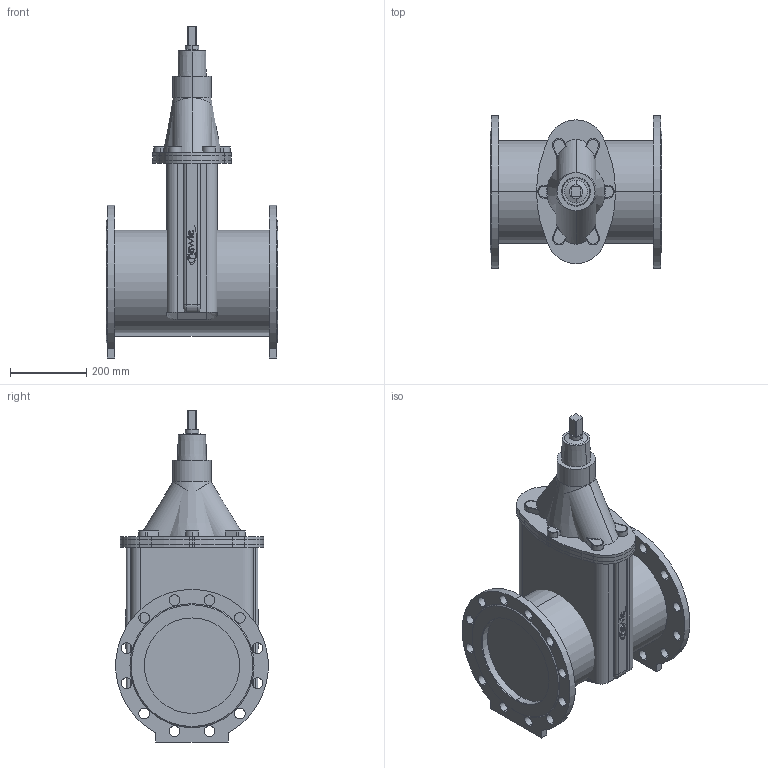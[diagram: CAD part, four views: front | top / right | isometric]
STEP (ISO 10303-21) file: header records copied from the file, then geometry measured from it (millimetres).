
FILE_DESCRIPTION(('STEP AP214'),'1');
FILE_NAME('S:/EK/USER/CAT6/3DHomepage/4700E2/4700E2-PN16-DN250.STP','2012-04-23T12:41:14',(' '),(' '),'Spatial InterOp 3D',' ',' ');
FILE_SCHEMA(('automotive_design'));
Length unit declared in the file: millimetre
Products named in the file (50): 3D-Objekt
Bounding box: 450 x 398.65 x 870 mm (x, y, z)
Volume: 49945978.6 mm3; surface area: 2316027.2 mm2
Topology: 50 solids, 50 shells, 500 faces, 1194 edges, 796 vertices
Faces by surface type: plane 246, cylinder 236, cone 10, bspline 4, torus 4
Entity records: 19994 total; most frequent: DIRECTION 2798, CARTESIAN_POINT 2608, ORIENTED_EDGE 2388, EDGE_CURVE 1194, AXIS2_PLACEMENT_3D 1058, VERTEX_POINT 796, LINE 682, VECTOR 682
